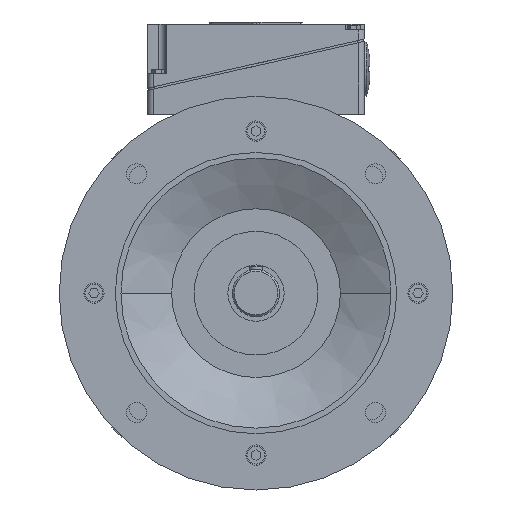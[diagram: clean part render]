
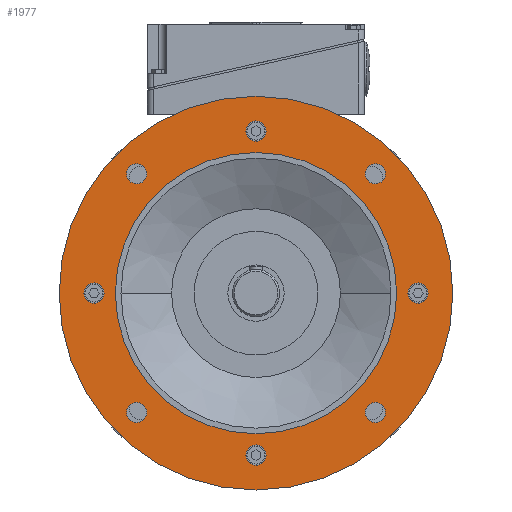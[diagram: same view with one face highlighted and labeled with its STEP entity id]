
A CAD part, front view. The second image highlights one B-rep face of the part: STEP entity #1977.
In plain terms, the highlighted planar face has unit normal (0, -1, 0).
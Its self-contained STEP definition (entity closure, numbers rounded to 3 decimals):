
#1977=ADVANCED_FACE('',(#4116,#4117,#4118,#4119,#4120,#4121,#4122,#4123,#4124,#4125),#4126,.T.);
#4116=FACE_BOUND('',#6418,.T.);
#4117=FACE_BOUND('',#6419,.T.);
#4118=FACE_BOUND('',#6420,.T.);
#4119=FACE_BOUND('',#6421,.T.);
#4120=FACE_BOUND('',#6422,.T.);
#4121=FACE_BOUND('',#6423,.T.);
#4122=FACE_BOUND('',#6424,.T.);
#4123=FACE_BOUND('',#6425,.T.);
#4124=FACE_BOUND('',#6426,.T.);
#4125=FACE_OUTER_BOUND('',#6427,.T.);
#4126=PLANE('',#6428);
#6418=EDGE_LOOP('',(#12763,#12764));
#6419=EDGE_LOOP('',(#12765,#12766));
#6420=EDGE_LOOP('',(#12767,#12768));
#6421=EDGE_LOOP('',(#12769,#12770));
#6422=EDGE_LOOP('',(#12771,#12772));
#6423=EDGE_LOOP('',(#12773,#12774));
#6424=EDGE_LOOP('',(#12775,#12776));
#6425=EDGE_LOOP('',(#12777,#12778));
#6426=EDGE_LOOP('',(#12779,#12780));
#6427=EDGE_LOOP('',(#12781,#12782));
#6428=AXIS2_PLACEMENT_3D('',#12783,#12784,#12785);
#12763=ORIENTED_EDGE('',*,*,#16384,.T.);
#12764=ORIENTED_EDGE('',*,*,#14260,.T.);
#12765=ORIENTED_EDGE('',*,*,#16386,.T.);
#12766=ORIENTED_EDGE('',*,*,#14255,.T.);
#12767=ORIENTED_EDGE('',*,*,#16388,.T.);
#12768=ORIENTED_EDGE('',*,*,#14250,.T.);
#12769=ORIENTED_EDGE('',*,*,#16390,.T.);
#12770=ORIENTED_EDGE('',*,*,#14245,.T.);
#12771=ORIENTED_EDGE('',*,*,#14240,.T.);
#12772=ORIENTED_EDGE('',*,*,#16455,.T.);
#12773=ORIENTED_EDGE('',*,*,#14235,.T.);
#12774=ORIENTED_EDGE('',*,*,#16459,.T.);
#12775=ORIENTED_EDGE('',*,*,#14230,.T.);
#12776=ORIENTED_EDGE('',*,*,#16463,.T.);
#12777=ORIENTED_EDGE('',*,*,#14225,.T.);
#12778=ORIENTED_EDGE('',*,*,#16467,.T.);
#12779=ORIENTED_EDGE('',*,*,#14210,.F.);
#12780=ORIENTED_EDGE('',*,*,#16495,.F.);
#12781=ORIENTED_EDGE('',*,*,#14217,.T.);
#12782=ORIENTED_EDGE('',*,*,#16493,.T.);
#12783=CARTESIAN_POINT('',(-150.0,-60.5,0.0));
#12784=DIRECTION('',(0.0,-1.0,0.0));
#12785=DIRECTION('',(-1.0,0.0,0.0));
#14210=EDGE_CURVE('',#17104,#17107,#17108,.T.);
#14217=EDGE_CURVE('',#17114,#17118,#17120,.T.);
#14225=EDGE_CURVE('',#17132,#17129,#17133,.T.);
#14230=EDGE_CURVE('',#17141,#17138,#17142,.T.);
#14235=EDGE_CURVE('',#17150,#17147,#17151,.T.);
#14240=EDGE_CURVE('',#17159,#17156,#17160,.T.);
#14245=EDGE_CURVE('',#17168,#17165,#17169,.T.);
#14250=EDGE_CURVE('',#17177,#17174,#17178,.T.);
#14255=EDGE_CURVE('',#17186,#17183,#17187,.T.);
#14260=EDGE_CURVE('',#17195,#17192,#17196,.T.);
#16384=EDGE_CURVE('',#17192,#17195,#20403,.T.);
#16386=EDGE_CURVE('',#17183,#17186,#20405,.T.);
#16388=EDGE_CURVE('',#17174,#17177,#20407,.T.);
#16390=EDGE_CURVE('',#17165,#17168,#20409,.T.);
#16455=EDGE_CURVE('',#17156,#17159,#20474,.T.);
#16459=EDGE_CURVE('',#17147,#17150,#20478,.T.);
#16463=EDGE_CURVE('',#17138,#17141,#20482,.T.);
#16467=EDGE_CURVE('',#17129,#17132,#20486,.T.);
#16493=EDGE_CURVE('',#17118,#17114,#20512,.T.);
#16495=EDGE_CURVE('',#17107,#17104,#20514,.T.);
#17104=VERTEX_POINT('',#21555);
#17107=VERTEX_POINT('',#21559);
#17108=CIRCLE('',#21560,125.0);
#17114=VERTEX_POINT('',#21567);
#17118=VERTEX_POINT('',#21572);
#17120=CIRCLE('',#21575,175.0);
#17129=VERTEX_POINT('',#21584);
#17132=VERTEX_POINT('',#21588);
#17133=CIRCLE('',#21589,9.0);
#17138=VERTEX_POINT('',#21595);
#17141=VERTEX_POINT('',#21599);
#17142=CIRCLE('',#21600,9.0);
#17147=VERTEX_POINT('',#21606);
#17150=VERTEX_POINT('',#21610);
#17151=CIRCLE('',#21611,9.0);
#17156=VERTEX_POINT('',#21617);
#17159=VERTEX_POINT('',#21621);
#17160=CIRCLE('',#21622,9.0);
#17165=VERTEX_POINT('',#21628);
#17168=VERTEX_POINT('',#21632);
#17169=CIRCLE('',#21633,9.0);
#17174=VERTEX_POINT('',#21639);
#17177=VERTEX_POINT('',#21643);
#17178=CIRCLE('',#21644,9.0);
#17183=VERTEX_POINT('',#21650);
#17186=VERTEX_POINT('',#21654);
#17187=CIRCLE('',#21655,9.0);
#17192=VERTEX_POINT('',#21661);
#17195=VERTEX_POINT('',#21665);
#17196=CIRCLE('',#21666,9.0);
#20403=CIRCLE('',#31455,9.0);
#20405=CIRCLE('',#31457,9.0);
#20407=CIRCLE('',#31459,9.0);
#20409=CIRCLE('',#31461,9.0);
#20474=CIRCLE('',#31855,9.0);
#20478=CIRCLE('',#31859,9.0);
#20482=CIRCLE('',#31863,9.0);
#20486=CIRCLE('',#31867,9.0);
#20512=CIRCLE('',#31924,175.0);
#20514=CIRCLE('',#31926,125.0);
#21555=CARTESIAN_POINT('',(-125.0,-60.5,0.0));
#21559=CARTESIAN_POINT('',(125.0,-60.5,0.));
#21560=AXIS2_PLACEMENT_3D('',#33271,#33272,#33273);
#21567=CARTESIAN_POINT('',(-175.0,-60.5,0.0));
#21572=CARTESIAN_POINT('',(175.0,-60.5,0.));
#21575=AXIS2_PLACEMENT_3D('',#33283,#33284,#33285);
#21584=CARTESIAN_POINT('',(9.0,-60.5,144.0));
#21588=CARTESIAN_POINT('',(-9.0,-60.5,144.0));
#21589=AXIS2_PLACEMENT_3D('',#33299,#33300,#33301);
#21595=CARTESIAN_POINT('',(-144.0,-60.5,9.0));
#21599=CARTESIAN_POINT('',(-144.0,-60.5,-9.0));
#21600=AXIS2_PLACEMENT_3D('',#33307,#33308,#33309);
#21606=CARTESIAN_POINT('',(-9.0,-60.5,-144.0));
#21610=CARTESIAN_POINT('',(9.0,-60.5,-144.0));
#21611=AXIS2_PLACEMENT_3D('',#33315,#33316,#33317);
#21617=CARTESIAN_POINT('',(144.0,-60.5,-9.0));
#21621=CARTESIAN_POINT('',(144.0,-60.5,9.0));
#21622=AXIS2_PLACEMENT_3D('',#33323,#33324,#33325);
#21628=CARTESIAN_POINT('',(112.43,-60.5,112.43));
#21632=CARTESIAN_POINT('',(99.702,-60.5,99.702));
#21633=AXIS2_PLACEMENT_3D('',#33331,#33332,#33333);
#21639=CARTESIAN_POINT('',(-112.43,-60.5,112.43));
#21643=CARTESIAN_POINT('',(-99.702,-60.5,99.702));
#21644=AXIS2_PLACEMENT_3D('',#33339,#33340,#33341);
#21650=CARTESIAN_POINT('',(-112.43,-60.5,-112.43));
#21654=CARTESIAN_POINT('',(-99.702,-60.5,-99.702));
#21655=AXIS2_PLACEMENT_3D('',#33347,#33348,#33349);
#21661=CARTESIAN_POINT('',(112.43,-60.5,-112.43));
#21665=CARTESIAN_POINT('',(99.702,-60.5,-99.702));
#21666=AXIS2_PLACEMENT_3D('',#33355,#33356,#33357);
#31455=AXIS2_PLACEMENT_3D('',#35364,#35365,#35366);
#31457=AXIS2_PLACEMENT_3D('',#35367,#35368,#35369);
#31459=AXIS2_PLACEMENT_3D('',#35370,#35371,#35372);
#31461=AXIS2_PLACEMENT_3D('',#35373,#35374,#35375);
#31855=AXIS2_PLACEMENT_3D('',#35407,#35408,#35409);
#31859=AXIS2_PLACEMENT_3D('',#35413,#35414,#35415);
#31863=AXIS2_PLACEMENT_3D('',#35419,#35420,#35421);
#31867=AXIS2_PLACEMENT_3D('',#35425,#35426,#35427);
#31924=AXIS2_PLACEMENT_3D('',#35436,#35437,#35438);
#31926=AXIS2_PLACEMENT_3D('',#35439,#35440,#35441);
#33271=CARTESIAN_POINT('',(0.0,-60.5,0.0));
#33272=DIRECTION('',(0.0,-1.0,0.0));
#33273=DIRECTION('',(-1.0,0.0,0.0));
#33283=CARTESIAN_POINT('',(0.0,-60.5,0.0));
#33284=DIRECTION('',(0.0,-1.0,0.0));
#33285=DIRECTION('',(-1.0,0.0,0.0));
#33299=CARTESIAN_POINT('',(0.0,-60.5,144.0));
#33300=DIRECTION('',(-0.0,1.0,0.0));
#33301=DIRECTION('',(1.0,0.0,0.0));
#33307=CARTESIAN_POINT('',(-144.0,-60.5,0.0));
#33308=DIRECTION('',(-0.0,1.0,0.0));
#33309=DIRECTION('',(0.0,0.0,1.0));
#33315=CARTESIAN_POINT('',(0.0,-60.5,-144.0));
#33316=DIRECTION('',(0.0,1.0,-0.0));
#33317=DIRECTION('',(-1.0,0.0,0.0));
#33323=CARTESIAN_POINT('',(144.0,-60.5,0.0));
#33324=DIRECTION('',(-0.0,1.0,0.0));
#33325=DIRECTION('',(0.0,0.0,-1.0));
#33331=CARTESIAN_POINT('',(106.066,-60.5,106.066));
#33332=DIRECTION('',(-0.0,1.0,0.0));
#33333=DIRECTION('',(0.707,0.0,0.707));
#33339=CARTESIAN_POINT('',(-106.066,-60.5,106.066));
#33340=DIRECTION('',(0.0,1.0,-0.0));
#33341=DIRECTION('',(-0.707,0.0,0.707));
#33347=CARTESIAN_POINT('',(-106.066,-60.5,-106.066));
#33348=DIRECTION('',(0.0,1.0,0.0));
#33349=DIRECTION('',(-0.707,0.0,-0.707));
#33355=CARTESIAN_POINT('',(106.066,-60.5,-106.066));
#33356=DIRECTION('',(-0.0,1.0,0.0));
#33357=DIRECTION('',(0.707,0.0,-0.707));
#35364=CARTESIAN_POINT('',(106.066,-60.5,-106.066));
#35365=DIRECTION('',(-0.0,1.0,0.0));
#35366=DIRECTION('',(0.707,0.0,-0.707));
#35367=CARTESIAN_POINT('',(-106.066,-60.5,-106.066));
#35368=DIRECTION('',(0.0,1.0,0.0));
#35369=DIRECTION('',(-0.707,0.0,-0.707));
#35370=CARTESIAN_POINT('',(-106.066,-60.5,106.066));
#35371=DIRECTION('',(0.0,1.0,-0.0));
#35372=DIRECTION('',(-0.707,0.0,0.707));
#35373=CARTESIAN_POINT('',(106.066,-60.5,106.066));
#35374=DIRECTION('',(-0.0,1.0,0.0));
#35375=DIRECTION('',(0.707,0.0,0.707));
#35407=CARTESIAN_POINT('',(144.0,-60.5,0.0));
#35408=DIRECTION('',(-0.0,1.0,0.0));
#35409=DIRECTION('',(0.0,0.0,-1.0));
#35413=CARTESIAN_POINT('',(0.0,-60.5,-144.0));
#35414=DIRECTION('',(0.0,1.0,-0.0));
#35415=DIRECTION('',(-1.0,0.0,0.0));
#35419=CARTESIAN_POINT('',(-144.0,-60.5,0.0));
#35420=DIRECTION('',(-0.0,1.0,0.0));
#35421=DIRECTION('',(0.0,0.0,1.0));
#35425=CARTESIAN_POINT('',(0.0,-60.5,144.0));
#35426=DIRECTION('',(-0.0,1.0,0.0));
#35427=DIRECTION('',(1.0,0.0,0.0));
#35436=CARTESIAN_POINT('',(0.0,-60.5,0.0));
#35437=DIRECTION('',(0.0,-1.0,0.0));
#35438=DIRECTION('',(-1.0,0.0,0.0));
#35439=CARTESIAN_POINT('',(0.0,-60.5,0.0));
#35440=DIRECTION('',(0.0,-1.0,0.0));
#35441=DIRECTION('',(-1.0,0.0,0.0));
